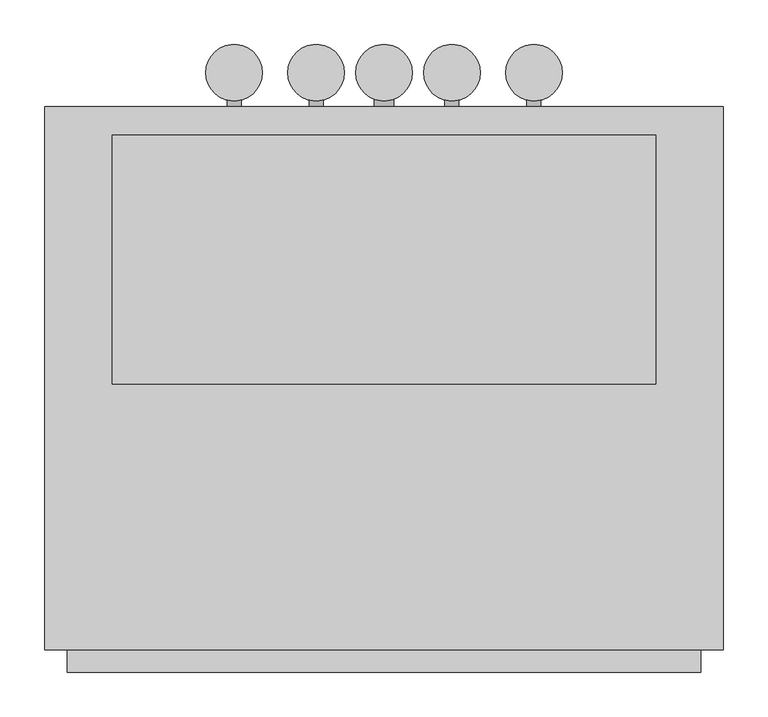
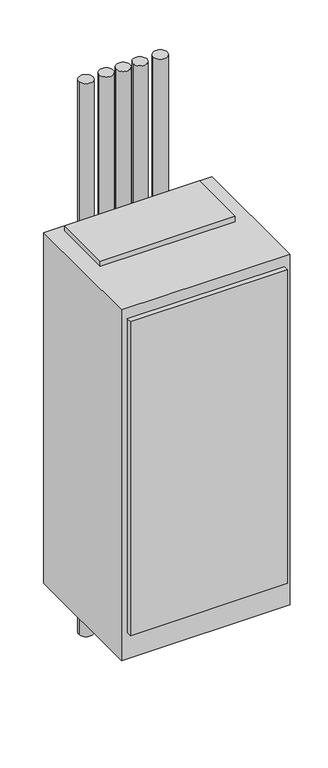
"""IFC4 building model written with IfcOpenShell, lengths in millimetres: proxy geometry, Concealed_Modular_Fan_Coil_Unit_-_42SMA_-_CARRIER_-_4-Pipe_-_WithRisers_2022 : Size 14 - 277v/60Hz/1Ph - 4/1 Coil."""

from ifc_helpers import new_model, si_unit, point, frame, frame_2d, origin, origin_with_axes, place, context, project, spatial, polyline, circle_curve, trimmed, segment, composite_curve, outline, extrude, source, transform, mapped, element, save


def mechanical_equipment_b1ffde39(model_context):
    return source(origin(), model_context, "Body", "SweptSolid", [
        extrude(outline(composite_curve([segment(trimmed(circle_curve(frame_2d((365.125, 282.575)), 31.75), [point((333.375, 282.575))], [point((396.875, 282.575))], False, "CARTESIAN"), True, "CONTINUOUS"), segment(trimmed(circle_curve(frame_2d((365.125, 282.575)), 31.75), [point((396.875, 282.575))], [point((333.375, 282.575))], False, "CARTESIAN"), True, "CONTINUOUS")], self_intersect=False)), frame((0.0, 0.0, -330.2), z_axis=(0.0, 0.0, 1.0), x_axis=(1.0, 0.0, 0.0)), (0.0, 0.0, 1.0), 2641.6),
        extrude(outline(composite_curve([segment(trimmed(circle_curve(frame_2d((457.2, 282.575)), 31.75), [point((425.45, 282.575))], [point((488.95, 282.575))], False, "CARTESIAN"), True, "CONTINUOUS"), segment(trimmed(circle_curve(frame_2d((457.2, 282.575)), 31.75), [point((488.95, 282.575))], [point((425.45, 282.575))], False, "CARTESIAN"), True, "CONTINUOUS")], self_intersect=False)), frame((0.0, 0.0, -330.2), z_axis=(0.0, 0.0, 1.0), x_axis=(1.0, 0.0, 0.0)), (0.0, 0.0, 1.0), 2641.6),
        extrude(outline(composite_curve([segment(trimmed(circle_curve(frame_2d((533.4, 282.575)), 31.75), [point((501.65, 282.575))], [point((565.15, 282.575))], False, "CARTESIAN"), True, "CONTINUOUS"), segment(trimmed(circle_curve(frame_2d((533.4, 282.575)), 31.75), [point((565.15, 282.575))], [point((501.65, 282.575))], False, "CARTESIAN"), True, "CONTINUOUS")], self_intersect=False)), frame((0.0, 0.0, -330.2), z_axis=(0.0, 0.0, 1.0), x_axis=(1.0, 0.0, 0.0)), (0.0, 0.0, 1.0), 2641.6),
        extrude(outline(composite_curve([segment(trimmed(circle_curve(frame_2d((609.6, 282.575)), 31.75), [point((577.85, 282.575))], [point((641.35, 282.575))], False, "CARTESIAN"), True, "CONTINUOUS"), segment(trimmed(circle_curve(frame_2d((609.6, 282.575)), 31.75), [point((641.35, 282.575))], [point((577.85, 282.575))], False, "CARTESIAN"), True, "CONTINUOUS")], self_intersect=False)), frame((0.0, 0.0, -330.2), z_axis=(0.0, 0.0, 1.0), x_axis=(1.0, 0.0, 0.0)), (0.0, 0.0, 1.0), 2641.6),
        extrude(outline(composite_curve([segment(trimmed(circle_curve(frame_2d((701.675, 282.575)), 31.75), [point((669.925, 282.575))], [point((733.425, 282.575))], False, "CARTESIAN"), True, "CONTINUOUS"), segment(trimmed(circle_curve(frame_2d((701.675, 282.575)), 31.75), [point((733.425, 282.575))], [point((669.925, 282.575))], False, "CARTESIAN"), True, "CONTINUOUS")], self_intersect=False)), frame((0.0, 0.0, -330.2), z_axis=(0.0, 0.0, 1.0), x_axis=(1.0, 0.0, 0.0)), (0.0, 0.0, 1.0), 2641.6),
        extrude(outline(composite_curve([segment(trimmed(circle_curve(frame_2d((990.6, 701.675)), 7.9375), [point((990.6, 693.7375))], [point((990.6, 709.6125))], False, "CARTESIAN"), True, "CONTINUOUS"), segment(trimmed(circle_curve(frame_2d((990.6, 701.675)), 7.9375), [point((990.6, 709.6125))], [point((990.6, 693.7375))], False, "CARTESIAN"), True, "CONTINUOUS")], self_intersect=False)), frame((0.0, 244.475, 0.0), z_axis=(0.0, 1.0, 0.0), x_axis=(0.0, 0.0, 1.0)), (0.0, 0.0, 1.0), 50.8),
        extrude(outline(composite_curve([segment(trimmed(circle_curve(frame_2d((990.6, 609.6)), 7.9375), [point((990.6, 601.6625))], [point((990.6, 617.5375))], False, "CARTESIAN"), True, "CONTINUOUS"), segment(trimmed(circle_curve(frame_2d((990.6, 609.6)), 7.9375), [point((990.6, 617.5375))], [point((990.6, 601.6625))], False, "CARTESIAN"), True, "CONTINUOUS")], self_intersect=False)), frame((0.0, 244.475, 0.0), z_axis=(0.0, 1.0, 0.0), x_axis=(0.0, 0.0, 1.0)), (0.0, 0.0, 1.0), 50.8),
        extrude(outline(composite_curve([segment(trimmed(circle_curve(frame_2d((990.6, 457.2)), 7.9375), [point((990.6, 449.2625))], [point((990.6, 465.1375))], False, "CARTESIAN"), True, "CONTINUOUS"), segment(trimmed(circle_curve(frame_2d((990.6, 457.2)), 7.9375), [point((990.6, 465.1375))], [point((990.6, 449.2625))], False, "CARTESIAN"), True, "CONTINUOUS")], self_intersect=False)), frame((0.0, 244.475, 0.0), z_axis=(0.0, 1.0, 0.0), x_axis=(0.0, 0.0, 1.0)), (0.0, 0.0, 1.0), 50.8),
        extrude(outline(composite_curve([segment(trimmed(circle_curve(frame_2d((990.6, 365.125)), 7.9375), [point((990.6, 357.1875))], [point((990.6, 373.0625))], False, "CARTESIAN"), True, "CONTINUOUS"), segment(trimmed(circle_curve(frame_2d((990.6, 365.125)), 7.9375), [point((990.6, 373.0625))], [point((990.6, 357.1875))], False, "CARTESIAN"), True, "CONTINUOUS")], self_intersect=False)), frame((0.0, 244.475, 0.0), z_axis=(0.0, 1.0, 0.0), x_axis=(0.0, 0.0, 1.0)), (0.0, 0.0, 1.0), 50.8),
        extrude(outline(composite_curve([segment(trimmed(circle_curve(frame_2d((76.2, 533.4)), 11.1125), [point((76.2, 522.2875))], [point((76.2, 544.5125))], False, "CARTESIAN"), True, "CONTINUOUS"), segment(trimmed(circle_curve(frame_2d((76.2, 533.4)), 11.1125), [point((76.2, 544.5125))], [point((76.2, 522.2875))], False, "CARTESIAN"), True, "CONTINUOUS")], self_intersect=False)), frame((0.0, 244.475, 0.0), z_axis=(0.0, 1.0, 0.0), x_axis=(0.0, 0.0, 1.0)), (0.0, 0.0, 1.0), 50.8),
        extrude(outline(polyline([(838.2, 212.725), (838.2, -66.675), (228.6, -66.675), (228.6, 212.725), (838.2, 212.725)])), frame((0.0, 0.0, 1676.4), z_axis=(0.0, 0.0, 1.0), x_axis=(1.0, 0.0, 0.0)), (0.0, 0.0, 1.0), 25.4),
        extrude(outline(polyline([(889.0, -390.525), (177.8, -390.525), (177.8, -365.125), (889.0, -365.125), (889.0, -390.525)])), frame((0.0, 0.0, 127.0), z_axis=(0.0, 0.0, 1.0), x_axis=(1.0, 0.0, 0.0)), (0.0, 0.0, 1.0), 1498.6),
        extrude(outline(polyline([(914.4, 244.475), (914.4, -365.125), (152.4, -365.125), (152.4, 244.475), (914.4, 244.475)])), origin_with_axes(), (0.0, 0.0, 1.0), 1676.4),
    ])


if __name__ == "__main__":
    model = new_model("IFC4")
    model_context = context("Model", 3, world=origin())
    ifc_project = project(units=[si_unit("LENGTHUNIT", "METRE", prefix="MILLI")], contexts=[model_context])
    site = spatial("IfcSite", under=ifc_project)
    building = spatial("IfcBuilding", under=site)
    placement = place(None, origin())
    mechanical_equipment_shape = mechanical_equipment_b1ffde39(model_context)
    element("IfcBuildingElementProxy", 1, Name="Concealed_Modular_Fan_Coil_Unit_-_42SMA_-_CARRIER_-_4-Pipe_-_WithRisers_2022 : Size 14 - 277v/60Hz/1Ph - 4/1 Coil", ObjectType="Concealed_Modular_Fan_Coil_Unit_-_42SMA_-_CARRIER_-_4-Pipe_-_WithRisers_2022 : Size 14 - 277v/60Hz/1Ph - 4/1 Coil", at=placement, inside=building, context=model_context, shape_type="MappedRepresentation", body=[
        mapped(mechanical_equipment_shape, transform((0.0, 0.0, 0.0), x_axis=(1.0, 0.0, 0.0), y_axis=(0.0, 1.0, 0.0), z_axis=(0.0, 0.0, 1.0))),
    ])
    save(model, "model.ifc")
